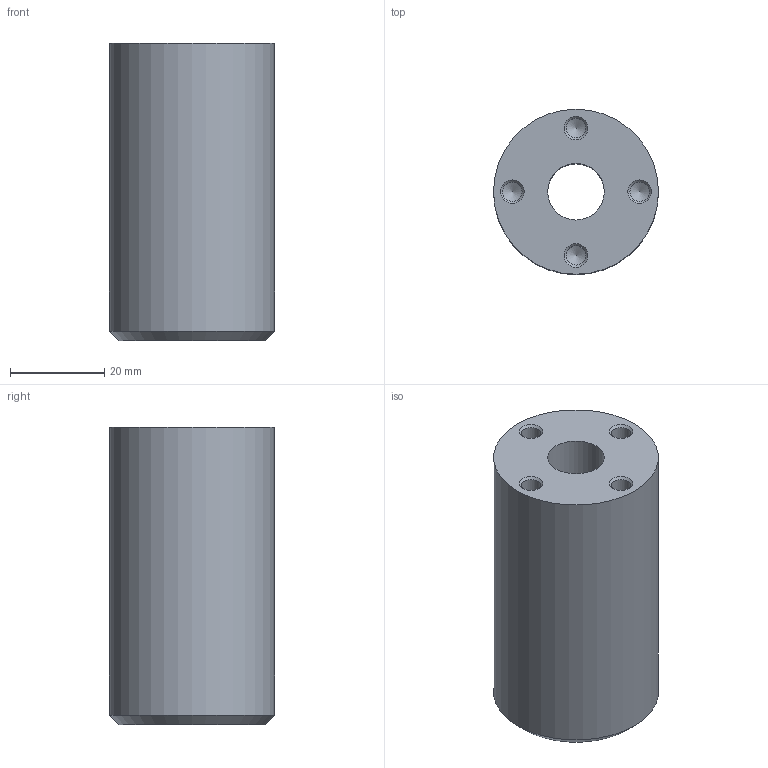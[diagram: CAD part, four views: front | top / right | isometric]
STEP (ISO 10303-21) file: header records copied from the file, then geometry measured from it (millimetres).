
FILE_DESCRIPTION( ( 'STEP AP214' ), '1' );
FILE_NAME( 'U:/Etudes/Top Solid/BIBLIO 3D AVM/STEP/PNEUMATIQUE/GUIDAGES/Accessoires/Paliers/513641_.step', '2005-05-04T12:35:30', ( ' ' ), ( ' ' ), 'XStep 1.0', ' ', ' ' );
FILE_SCHEMA( ( 'automotive_design' ) );
Length unit declared in the file: metre
Products named in the file (1): 1
Bounding box: 35 x 35 x 63 mm (x, y, z)
Volume: 52535.4 mm3; surface area: 11553.6 mm2
Topology: 1 solids, 1 shells, 21 faces, 44 edges, 25 vertices
Faces by surface type: cylinder 10, cone 9, plane 2
Full cylindrical faces by diameter (mm): 4.134 x8, 12 x1, 35 x1
Entity records: 628 total; most frequent: DIRECTION 86, CARTESIAN_POINT 68, AXIS2_PLACEMENT_3D 43, EDGE_LOOP 42, ORIENTED_EDGE 42, FACE_OUTER_BOUND 31, VERTEX_POINT 25, STYLED_ITEM 21
